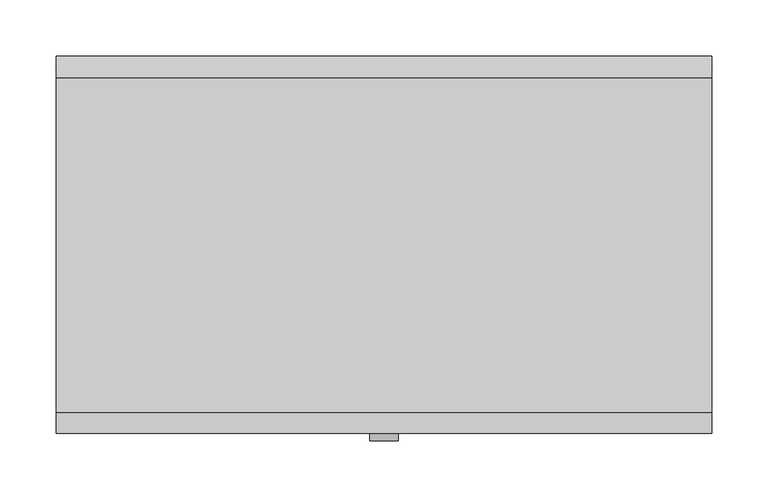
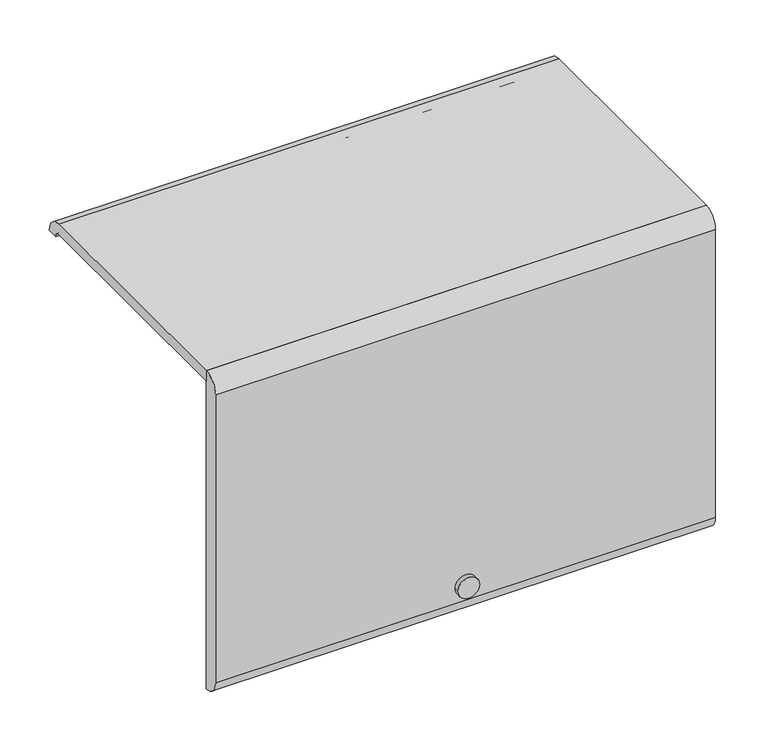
"""IFC4 building model written with IfcOpenShell, lengths in millimetres: furniture geometry."""

from ifc_helpers import new_model, si_unit, point, frame, frame_2d, origin, place, context, project, spatial, polyline, circle_curve, trimmed, segment, composite_curve, outline, extrude, source, transform, mapped, element, save


def furniture_9d596dc5(model_context):
    return source(origin(), model_context, "Body", "SweptSolid", [
        extrude(outline(composite_curve([segment(polyline([(-136.525, 2094.8015), (-136.525, 2107.5015), (161.925, 2107.5015)]), True, "CONTINUOUS"), segment(trimmed(circle_curve(frame_2d((161.925, 2088.4515)), 19.05), [point((161.925, 2107.5015))], [point((180.975, 2088.4515))], False, "CARTESIAN"), True, "CONTINUOUS"), segment(polyline([(180.975, 2088.4515), (168.275, 2088.4515)]), True, "CONTINUOUS"), segment(trimmed(circle_curve(frame_2d((161.925, 2088.4515)), 6.35), [point((168.275, 2088.4515))], [point((161.925, 2094.8015))], True, "CARTESIAN"), True, "CONTINUOUS"), segment(polyline([(161.925, 2094.8015), (-136.525, 2094.8015)]), True, "CONTINUOUS")], self_intersect=False)), frame((-292.1, 0.0, 0.0), z_axis=(1.0, 0.0, 0.0), x_axis=(0.0, 1.0, 0.0)), (0.0, 0.0, 1.0), 584.2),
        extrude(outline(composite_curve([segment(trimmed(circle_curve(frame_2d((-136.525, 2088.4515)), 19.05), [point((-155.575, 2088.4515))], [point((-136.525, 2107.5015))], False, "CARTESIAN"), True, "CONTINUOUS"), segment(polyline([(-136.525, 2107.5015), (-136.525, 1713.8015)]), True, "CONTINUOUS"), segment(trimmed(circle_curve(frame_2d((-136.525, 1732.8515)), 19.05), [point((-136.525, 1713.8015))], [point((-155.575, 1732.8515))], False, "CARTESIAN"), True, "CONTINUOUS"), segment(polyline([(-155.575, 1732.8515), (-155.575, 2088.4515)]), True, "CONTINUOUS")], self_intersect=False)), frame((-292.1, 0.0, 0.0), z_axis=(1.0, 0.0, 0.0), x_axis=(0.0, 1.0, 0.0)), (0.0, 0.0, 1.0), 584.2),
        extrude(outline(composite_curve([segment(trimmed(circle_curve(frame_2d((1751.8633906, 0.0201199)), 12.7253951), [point((1751.8633906, 12.745515))], [point((1751.8633906, -12.7052752))], False, "CARTESIAN"), True, "CONTINUOUS"), segment(trimmed(circle_curve(frame_2d((1751.8633906, 0.0201199)), 12.7253951), [point((1751.8633906, -12.7052752))], [point((1751.8633906, 12.745515))], False, "CARTESIAN"), True, "CONTINUOUS")], self_intersect=False)), frame((0.0, -161.925, 0.0), z_axis=(0.0, 1.0, 0.0), x_axis=(0.0, 0.0, 1.0)), (0.0, 0.0, 1.0), 6.35),
    ])


if __name__ == "__main__":
    model = new_model("IFC4")
    model_context = context("Model", 3, world=origin())
    ifc_project = project(units=[si_unit("LENGTHUNIT", "METRE", prefix="MILLI")], contexts=[model_context])
    site = spatial("IfcSite", under=ifc_project)
    building = spatial("IfcBuilding", under=site)
    placement = place(None, origin())
    furniture_shape = furniture_9d596dc5(model_context)
    element("IfcFurniture", 1, ObjectType="HermanMiller_ActionOffice_A3313_B-StyleFlipperDoor : Paint 15-1/2\"H x 13\"D x 24\"W", at=placement, inside=building, context=model_context, shape_type="MappedRepresentation", body=[
        mapped(furniture_shape, transform((0.0, 0.0, 0.0), x_axis=(1.0, 0.0, 0.0), y_axis=(0.0, 1.0, 0.0), z_axis=(0.0, 0.0, 1.0))),
    ])
    save(model, "model.ifc")
